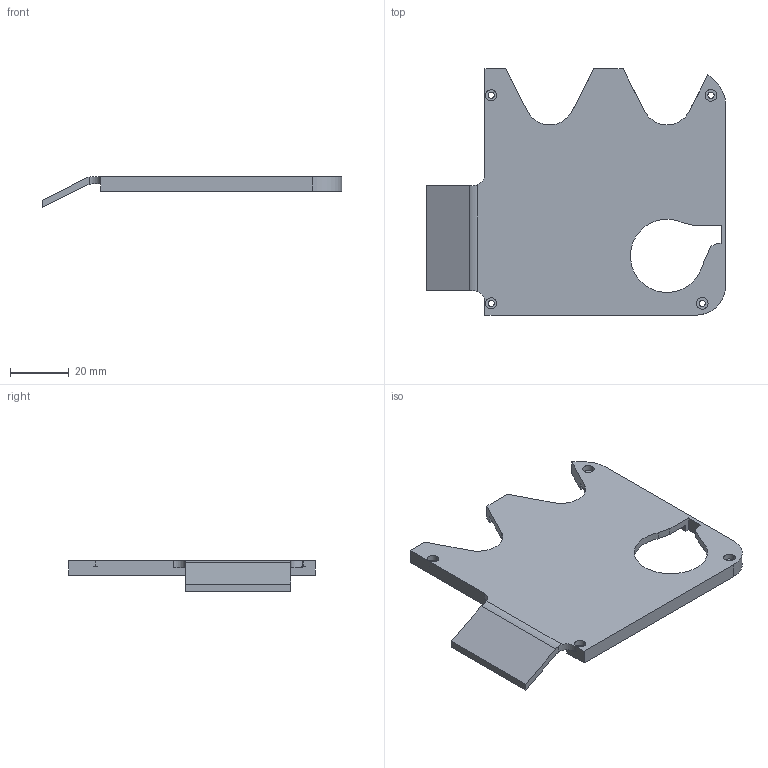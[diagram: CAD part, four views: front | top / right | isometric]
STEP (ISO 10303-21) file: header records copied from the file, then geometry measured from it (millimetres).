
FILE_DESCRIPTION (( 'STEP AP214' ), '1' );
FILE_NAME ('Palm3.STEP', '2026-09-16T05:41:10', ( '' ), ( '' ), 'SwSTEP 2.0', 'SolidWorks 2024', '' );
FILE_SCHEMA (( 'AUTOMOTIVE_DESIGN' ));
Length unit declared in the file: millimetre
Products named in the file (2): gx16_手掌盖_默认; Palm3
Assembly tree (1 placements, depth 2):
  Palm3
    gx16_手掌盖_默认
Bounding box: 102.1 x 84 x 10.5 mm (x, y, z)
Volume: 17840.4 mm3; surface area: 15179.5 mm2
Topology: 1 solids, 1 shells, 66 faces, 183 edges, 122 vertices
Faces by surface type: plane 40, cylinder 26
Entity records: 2207 total; most frequent: CARTESIAN_POINT 395, DIRECTION 372, ORIENTED_EDGE 366, EDGE_CURVE 183, LINE 126, VECTOR 126, AXIS2_PLACEMENT_3D 123, VERTEX_POINT 122
